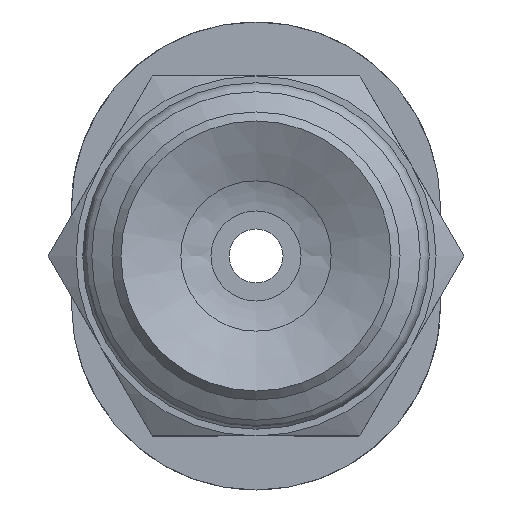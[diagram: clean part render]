
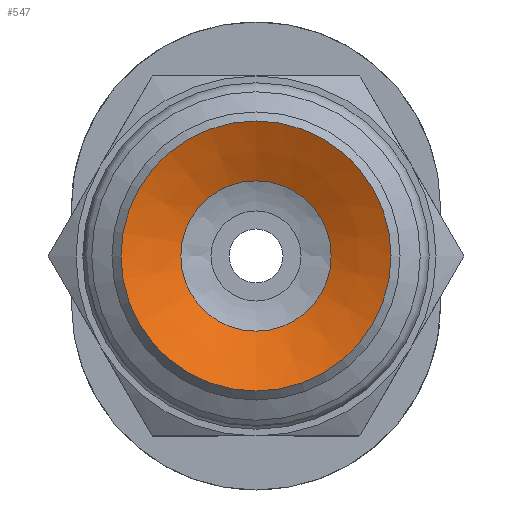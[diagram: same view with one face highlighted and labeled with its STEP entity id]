
A CAD part, front view. The second image highlights one B-rep face of the part: STEP entity #547.
In plain terms, the highlighted conical face has half-angle 64.998 degrees and reference radius 1.285 mm.
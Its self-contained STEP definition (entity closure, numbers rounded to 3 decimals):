
#547=ADVANCED_FACE('',(#827,#828),#829,.F.);
#827=FACE_BOUND('',#1216,.T.);
#828=FACE_OUTER_BOUND('',#1217,.T.);
#829=CONICAL_SURFACE('',#1218,1.285,1.134);
#1216=EDGE_LOOP('',(#2139));
#1217=EDGE_LOOP('',(#2140));
#1218=AXIS2_PLACEMENT_3D('',#2141,#2142,#2143);
#2139=ORIENTED_EDGE('',*,*,#2609,.T.);
#2140=ORIENTED_EDGE('',*,*,#2608,.T.);
#2141=CARTESIAN_POINT('',(0.0,0.8,0.0));
#2142=DIRECTION('',(-0.0,-1.0,0.));
#2143=DIRECTION('',(0.0,0.,-1.0));
#2608=EDGE_CURVE('',#2956,#2956,#2957,.T.);
#2609=EDGE_CURVE('',#2958,#2958,#2959,.T.);
#2956=VERTEX_POINT('',#3666);
#2957=CIRCLE('',#3667,3.);
#2958=VERTEX_POINT('',#3668);
#2959=CIRCLE('',#3669,1.67);
#3666=CARTESIAN_POINT('',(0.0,0.,-3.));
#3667=AXIS2_PLACEMENT_3D('',#4331,#4332,#4333);
#3668=CARTESIAN_POINT('',(0.0,0.62,-1.67));
#3669=AXIS2_PLACEMENT_3D('',#4334,#4335,#4336);
#4331=CARTESIAN_POINT('',(0.0,0.0,0.0));
#4332=DIRECTION('',(0.0,-1.0,0.));
#4333=DIRECTION('',(0.0,0.,-1.0));
#4334=CARTESIAN_POINT('',(0.0,0.62,0.0));
#4335=DIRECTION('',(0.0,1.0,0.));
#4336=DIRECTION('',(0.0,0.,-1.0));
